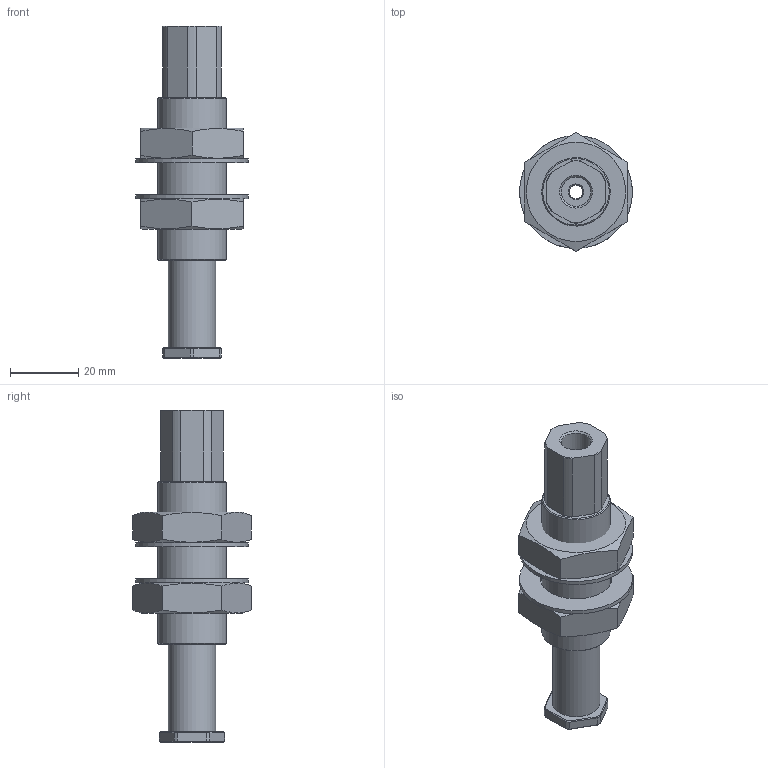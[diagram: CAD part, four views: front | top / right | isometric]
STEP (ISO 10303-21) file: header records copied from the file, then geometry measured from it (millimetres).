
FILE_DESCRIPTION(('STEP AP214'),'1');
FILE_NAME('CA.SDRG.2025.stp','2018-10-11T12:41:46',(' '),(' '),'Spatial InterOp 3D',' ',' ');
FILE_SCHEMA(('AUTOMOTIVE_DESIGN { 1 0 10303 214 1 1 1 1 }'));
Length unit declared in the file: millimetre
Products named in the file (7): CA.SDRG.2025; R.20.SCH; 05.02.001.06; VSN.20.1; SDRG.2025.02; M.12X39.50; SDR.2025.01
Assembly tree (8 placements, depth 2):
  CA.SDRG.2025
    R.20.SCH  x2
    05.02.001.06  x2
    VSN.20.1
    SDRG.2025.02
    M.12X39.50
    SDR.2025.01
Bounding box: 33 x 34.64 x 97 mm (x, y, z)
Volume: 29556.6 mm3; surface area: 20834.6 mm2
Topology: 8 solids, 8 shells, 124 faces, 277 edges, 173 vertices
Faces by surface type: plane 57, cone 37, cylinder 29, bspline 1
Full cylindrical faces by diameter (mm): 4 x1, 8.566 x3, 9.7 x1, 10 x2, 13.8 x1, 14 x1, 18.5 x2, 20 x1, 21 x2, 33 x2
Entity records: 6968 total; most frequent: CARTESIAN_POINT 3668, DIRECTION 472, ORIENTED_EDGE 436, EDGE_CURVE 218, AXIS2_PLACEMENT_3D 202, VERTEX_POINT 149, EDGE_LOOP 147, FACE_OUTER_BOUND 122
